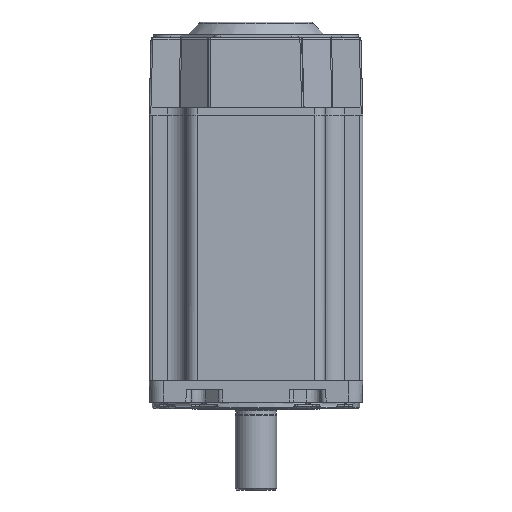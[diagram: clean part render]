
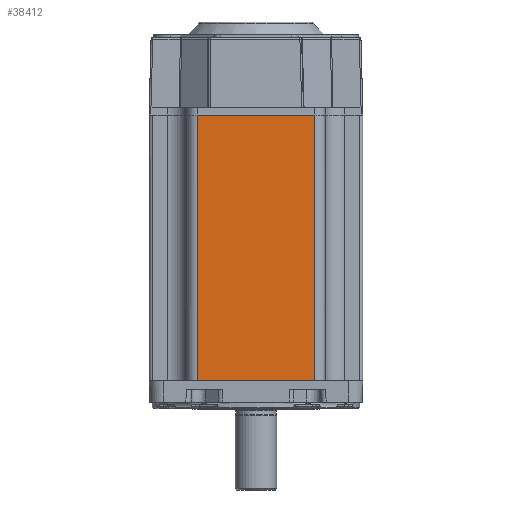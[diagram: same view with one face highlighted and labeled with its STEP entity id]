
A CAD part, front view. The second image highlights one B-rep face of the part: STEP entity #38412.
In plain terms, the highlighted planar face has unit normal (0, -1, 0).
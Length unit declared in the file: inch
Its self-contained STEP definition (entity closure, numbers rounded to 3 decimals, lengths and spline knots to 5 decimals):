
#463=CARTESIAN_POINT('',(1.058,-1.925,5.213));
#464=VERTEX_POINT('',#463);
#527=CARTESIAN_POINT('',(-1.058,-1.925,5.213));
#528=VERTEX_POINT('',#527);
#535=CARTESIAN_POINT('',(1.058,-1.925,5.213));
#536=DIRECTION('',(-1.0,0.0,0.0));
#537=VECTOR('',#536,2.116);
#538=LINE('',#535,#537);
#539=EDGE_CURVE('',#464,#528,#538,.T.);
#36597=CARTESIAN_POINT('',(1.058,-1.925,0.423));
#36598=VERTEX_POINT('',#36597);
#36599=CARTESIAN_POINT('',(1.058,-1.925,5.213));
#36600=DIRECTION('',(0.0,0.0,-1.0));
#36601=VECTOR('',#36600,4.79);
#36602=LINE('',#36599,#36601);
#36603=EDGE_CURVE('',#464,#36598,#36602,.T.);
#36730=CARTESIAN_POINT('',(-1.058,-1.925,0.423));
#36731=VERTEX_POINT('',#36730);
#36741=CARTESIAN_POINT('',(-1.058,-1.925,0.423));
#36742=DIRECTION('',(1.0,0.0,0.0));
#36743=VECTOR('',#36742,2.116);
#36744=LINE('',#36741,#36743);
#36745=EDGE_CURVE('',#36731,#36598,#36744,.T.);
#36764=CARTESIAN_POINT('',(-1.058,-1.925,0.423));
#36765=DIRECTION('',(0.0,0.0,1.0));
#36766=VECTOR('',#36765,4.79);
#36767=LINE('',#36764,#36766);
#36768=EDGE_CURVE('',#36731,#528,#36767,.T.);
#38401=CARTESIAN_POINT('',(1.245,-1.925,0.423));
#38402=DIRECTION('',(0.0,-1.0,0.0));
#38403=DIRECTION('',(0.0,0.0,-1.0));
#38404=AXIS2_PLACEMENT_3D('',#38401,#38402,#38403);
#38405=PLANE('',#38404);
#38406=ORIENTED_EDGE('',*,*,#539,.T.);
#38407=ORIENTED_EDGE('',*,*,#36768,.F.);
#38408=ORIENTED_EDGE('',*,*,#36745,.T.);
#38409=ORIENTED_EDGE('',*,*,#36603,.F.);
#38410=EDGE_LOOP('',(#38406,#38407,#38408,#38409));
#38411=FACE_OUTER_BOUND('',#38410,.T.);
#38412=ADVANCED_FACE('',(#38411),#38405,.T.);
